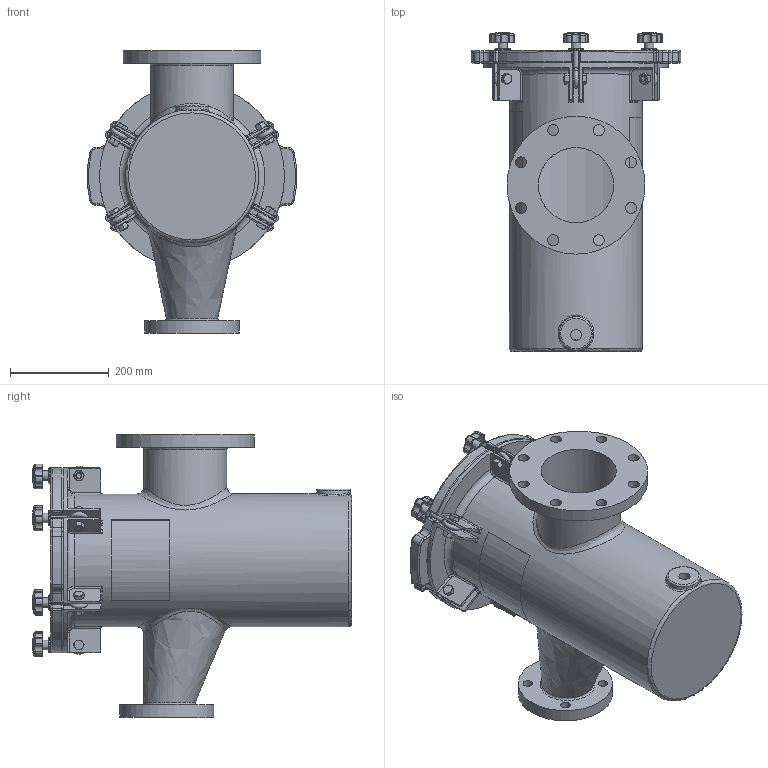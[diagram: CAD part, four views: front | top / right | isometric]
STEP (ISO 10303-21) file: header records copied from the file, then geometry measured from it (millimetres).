
FILE_DESCRIPTION(/* description */ ('STRAINER BODY'),/* implementation_level */ '2;1');
FILE_NAME(/* name */ '\\chntshnas1\IP_PUMPS\NeptuneBenson\Project Execution\WIP\Ready for delivery - Do not Disturb -Updated with metric Flange\Workspace\FG Reducing Strainer\150NBFG63ER1.stp',/* time_stamp */ '2016-10-19T11:55:02+05:00',/* author */ ('20076253'),/* organization */ (''),/* preprocessor_version */ 'ST-DEVELOPER v16.1',/* originating_system */ 'Autodesk Inventor 2016',/* authorisation */ '');
FILE_SCHEMA (('AUTOMOTIVE_DESIGN { 1 0 10303 214 3 1 1 }'));
Length unit declared in the file: inch
Products named in the file (18): NBFG63EBODYR1; 150NBCVR48R1; 150NBGSK48R1; Perforated Basket 10in; Bride (Ring) 10in; Baffle 10in; Handle 10in; Bottom Strainer 10in; NBBSK08T316; Nut- 1_2  UNC; Bolt-1_2 x 1 1_2  UNC; EyeBolt; Washer; Knob M10; Securing Assembly For FG without Brace; Label for 10.625 inch (Right); Label for 10.625 inch (Left); Guardian FG Reducing H&L Strainer (Inch)
Assembly tree (22 placements, depth 3):
  Guardian FG Reducing H&L Strainer (Inch)
    NBFG63EBODYR1
    150NBCVR48R1
    150NBGSK48R1
    NBBSK08T316
      Perforated Basket 10in
      Bride (Ring) 10in
      Baffle 10in
      Handle 10in
      Bottom Strainer 10in
    Securing Assembly For FG without Brace  x6
      Nut- 1_2  UNC
      Bolt-1_2 x 1 1_2  UNC
      EyeBolt
      Washer
      Knob M10
    Label for 10.625 inch (Right)
    Label for 10.625 inch (Left)
Bounding box: 424.18 x 646.2 x 571.5 mm (x, y, z)
Volume: 11046703.9 mm3; surface area: 2738827.6 mm2
Topology: 40 solids, 40 shells, 1265 faces, 2901 edges, 1715 vertices
Faces by surface type: cylinder 459, plane 330, cone 138, torus 124, bspline 112, sphere 102
Full cylindrical faces by diameter (mm): 3.175 x10, 6.35 x2, 8.382 x6, 9.525 x12, 10.592 x6, 12.7 x6, 15.875 x12, 19 x12, 19.05 x10, 22.225 x8, 22.809 x1, 31.75 x6, 68.263 x1, 152.4 x1, 168.275 x1, 187.325 x2, 190.5 x2, 193.04 x1, 254 x2, 266.7 x1, 269.875 x1, 276.225 x1, 279.4 x1, 311.15 x1, 317.5 x1
Entity records: 25965 total; most frequent: CARTESIAN_POINT 10143, DIRECTION 3268, ORIENTED_EDGE 2980, EDGE_CURVE 1490, AXIS2_PLACEMENT_3D 1378, VERTEX_POINT 942, EDGE_LOOP 840, CIRCLE 693
